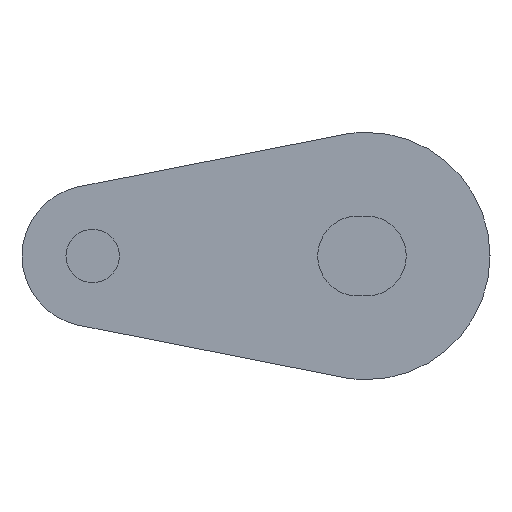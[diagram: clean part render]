
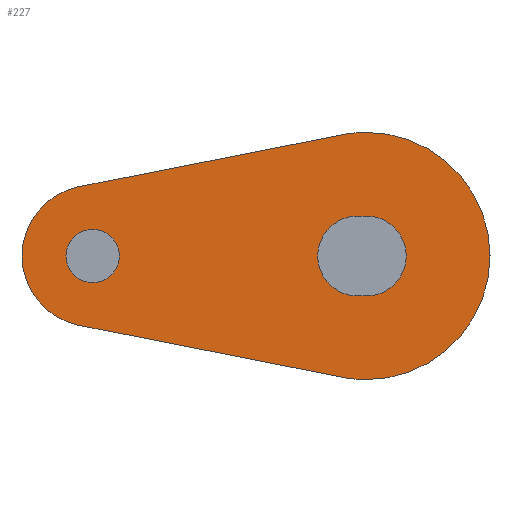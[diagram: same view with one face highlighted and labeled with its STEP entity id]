
A CAD part, left-side view. The second image highlights one B-rep face of the part: STEP entity #227.
In plain terms, the highlighted planar face has unit normal (-1, 0, 0).
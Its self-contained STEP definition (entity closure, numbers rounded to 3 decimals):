
#21 = CARTESIAN_POINT ( 'NONE',  ( -329.5, 0., 7. ) ) ;
#30 = CARTESIAN_POINT ( 'NONE',  ( -329.5, 1.355, -6.868 ) ) ;
#34 = CARTESIAN_POINT ( 'NONE',  ( -329.5, 0., 2.26 ) ) ;
#37 = CARTESIAN_POINT ( 'NONE',  ( -329.5, 15.5, -1.51 ) ) ;
#47 = CARTESIAN_POINT ( 'NONE',  ( -329.5, 1.355, 6.868 ) ) ;
#48 = CARTESIAN_POINT ( 'NONE',  ( -329.5, 15.5, 1.51 ) ) ;
#57 = EDGE_CURVE ( 'NONE', #661, #658, #389, .T. ) ;
#81 = AXIS2_PLACEMENT_3D ( 'NONE', #554, #553, #552 ) ;
#84 = AXIS2_PLACEMENT_3D ( 'NONE', #762, #825, #583 ) ;
#95 = AXIS2_PLACEMENT_3D ( 'NONE', #701, #699, #756 ) ;
#98 = EDGE_CURVE ( 'NONE', #606, #644, #348, .T. ) ;
#106 = AXIS2_PLACEMENT_3D ( 'NONE', #730, #704, #705 ) ;
#120 = AXIS2_PLACEMENT_3D ( 'NONE', #666, #622, #618 ) ;
#121 = EDGE_CURVE ( 'NONE', #631, #661, #330, .T. ) ;
#122 = EDGE_CURVE ( 'NONE', #658, #642, #327, .T. ) ;
#124 = EDGE_CURVE ( 'NONE', #625, #610, #323, .T. ) ;
#126 = EDGE_CURVE ( 'NONE', #643, #611, #322, .T. ) ;
#148 = EDGE_CURVE ( 'NONE', #611, #606, #871, .T. ) ;
#150 = EDGE_CURVE ( 'NONE', #635, #696, #872, .T. ) ;
#153 = EDGE_CURVE ( 'NONE', #610, #625, #971, .T. ) ;
#158 = EDGE_CURVE ( 'NONE', #696, #643, #964, .T. ) ;
#161 = AXIS2_PLACEMENT_3D ( 'NONE', #668, #617, #616 ) ;
#166 = AXIS2_PLACEMENT_3D ( 'NONE', #681, #680, #679 ) ;
#174 = AXIS2_PLACEMENT_3D ( 'NONE', #713, #810, #811 ) ;
#205 = EDGE_CURVE ( 'NONE', #644, #635, #927, .T. ) ;
#209 = AXIS2_PLACEMENT_3D ( 'NONE', #676, #621, #600 ) ;
#214 = EDGE_CURVE ( 'NONE', #642, #631, #922, .T. ) ;
#227 = ADVANCED_FACE ( 'NONE', ( #907, #904, #902 ), #558, .T. ) ;
#255 = CARTESIAN_POINT ( 'NONE',  ( -329.5, 16.274, 3.924 ) ) ;
#257 = CARTESIAN_POINT ( 'NONE',  ( -329.5, 0.5, 2.26 ) ) ;
#266 = CARTESIAN_POINT ( 'NONE',  ( -329.5, 0., -2.26 ) ) ;
#269 = CARTESIAN_POINT ( 'NONE',  ( -329.5, 0.5, -2.26 ) ) ;
#280 = CARTESIAN_POINT ( 'NONE',  ( -329.5, 0., -7. ) ) ;
#322 = LINE ( 'NONE', #620, #326 ) ;
#323 = CIRCLE ( 'NONE', #209, 1.51 ) ;
#326 = VECTOR ( 'NONE', #595, 1000. ) ;
#327 = CIRCLE ( 'NONE', #161, 2.26 ) ;
#330 = CIRCLE ( 'NONE', #120, 2.26 ) ;
#348 = CIRCLE ( 'NONE', #166, 7. ) ;
#389 = LINE ( 'NONE', #629, #394 ) ;
#390 = EDGE_LOOP ( 'NONE', ( #989, #984, #981, #991, #979, #1038 ) ) ;
#394 = VECTOR ( 'NONE', #695, 1000. ) ;
#445 = EDGE_LOOP ( 'NONE', ( #1041, #986, #977, #976 ) ) ;
#453 = EDGE_LOOP ( 'NONE', ( #974, #1054 ) ) ;
#543 = DIRECTION ( 'NONE',  ( 0., -1., 0. ) ) ;
#544 = CARTESIAN_POINT ( 'NONE',  ( -329.5, 0.5, 2.26 ) ) ;
#552 = DIRECTION ( 'NONE',  ( 0., 0., -1. ) ) ;
#553 = DIRECTION ( 'NONE',  ( -1., 0., 0. ) ) ;
#554 = CARTESIAN_POINT ( 'NONE',  ( -329.5, 15.5, 0. ) ) ;
#558 = PLANE ( 'NONE',  #81 ) ;
#583 = DIRECTION ( 'NONE',  ( 0., 0., -1. ) ) ;
#595 = DIRECTION ( 'NONE',  ( 0., -0.981, 0.194 ) ) ;
#600 = DIRECTION ( 'NONE',  ( 0., 0., -1. ) ) ;
#606 = VERTEX_POINT ( 'NONE', #21 ) ;
#610 = VERTEX_POINT ( 'NONE', #48 ) ;
#611 = VERTEX_POINT ( 'NONE', #47 ) ;
#616 = DIRECTION ( 'NONE',  ( 0., 0., -1. ) ) ;
#617 = DIRECTION ( 'NONE',  ( 1., 0., 0. ) ) ;
#618 = DIRECTION ( 'NONE',  ( 0., 0., -1. ) ) ;
#620 = CARTESIAN_POINT ( 'NONE',  ( -329.5, 16.274, 3.924 ) ) ;
#621 = DIRECTION ( 'NONE',  ( 1., 0., 0. ) ) ;
#622 = DIRECTION ( 'NONE',  ( 1., 0., 0. ) ) ;
#625 = VERTEX_POINT ( 'NONE', #37 ) ;
#629 = CARTESIAN_POINT ( 'NONE',  ( -329.5, 0.5, -2.26 ) ) ;
#631 = VERTEX_POINT ( 'NONE', #34 ) ;
#635 = VERTEX_POINT ( 'NONE', #30 ) ;
#642 = VERTEX_POINT ( 'NONE', #257 ) ;
#643 = VERTEX_POINT ( 'NONE', #255 ) ;
#644 = VERTEX_POINT ( 'NONE', #280 ) ;
#658 = VERTEX_POINT ( 'NONE', #269 ) ;
#661 = VERTEX_POINT ( 'NONE', #266 ) ;
#666 = CARTESIAN_POINT ( 'NONE',  ( -329.5, 0., 0. ) ) ;
#668 = CARTESIAN_POINT ( 'NONE',  ( -329.5, 0.5, 0. ) ) ;
#676 = CARTESIAN_POINT ( 'NONE',  ( -329.5, 15.5, 0. ) ) ;
#679 = DIRECTION ( 'NONE',  ( 0., 0., -1. ) ) ;
#680 = DIRECTION ( 'NONE',  ( 1., 0., 0. ) ) ;
#681 = CARTESIAN_POINT ( 'NONE',  ( -329.5, 0., 0. ) ) ;
#695 = DIRECTION ( 'NONE',  ( 0., 1., 0. ) ) ;
#696 = VERTEX_POINT ( 'NONE', #865 ) ;
#699 = DIRECTION ( 'NONE',  ( 1., 0., 0. ) ) ;
#701 = CARTESIAN_POINT ( 'NONE',  ( -329.5, 15.5, 0. ) ) ;
#704 = DIRECTION ( 'NONE',  ( 1., 0., 0. ) ) ;
#705 = DIRECTION ( 'NONE',  ( 0., 0., -1. ) ) ;
#708 = CARTESIAN_POINT ( 'NONE',  ( -329.5, 1.355, -6.868 ) ) ;
#709 = DIRECTION ( 'NONE',  ( 0., 0.981, 0.194 ) ) ;
#713 = CARTESIAN_POINT ( 'NONE',  ( -329.5, 15.5, 0. ) ) ;
#730 = CARTESIAN_POINT ( 'NONE',  ( -329.5, 0., 0. ) ) ;
#756 = DIRECTION ( 'NONE',  ( 0., 0., -1. ) ) ;
#762 = CARTESIAN_POINT ( 'NONE',  ( -329.5, 0., 0. ) ) ;
#810 = DIRECTION ( 'NONE',  ( 1., 0., 0. ) ) ;
#811 = DIRECTION ( 'NONE',  ( 0., 0., -1. ) ) ;
#825 = DIRECTION ( 'NONE',  ( 1., 0., 0. ) ) ;
#865 = CARTESIAN_POINT ( 'NONE',  ( -329.5, 16.274, -3.924 ) ) ;
#871 = CIRCLE ( 'NONE', #106, 7. ) ;
#872 = LINE ( 'NONE', #708, #877 ) ;
#877 = VECTOR ( 'NONE', #709, 1000. ) ;
#902 = FACE_OUTER_BOUND ( 'NONE', #390, .T. ) ;
#904 = FACE_BOUND ( 'NONE', #453, .T. ) ;
#907 = FACE_BOUND ( 'NONE', #445, .T. ) ;
#921 = VECTOR ( 'NONE', #543, 1000. ) ;
#922 = LINE ( 'NONE', #544, #921 ) ;
#927 = CIRCLE ( 'NONE', #84, 7. ) ;
#964 = CIRCLE ( 'NONE', #174, 4. ) ;
#971 = CIRCLE ( 'NONE', #95, 1.51 ) ;
#974 = ORIENTED_EDGE ( 'NONE', *, *, #124, .T. ) ;
#976 = ORIENTED_EDGE ( 'NONE', *, *, #57, .T. ) ;
#977 = ORIENTED_EDGE ( 'NONE', *, *, #121, .T. ) ;
#979 = ORIENTED_EDGE ( 'NONE', *, *, #148, .F. ) ;
#981 = ORIENTED_EDGE ( 'NONE', *, *, #205, .F. ) ;
#984 = ORIENTED_EDGE ( 'NONE', *, *, #150, .F. ) ;
#986 = ORIENTED_EDGE ( 'NONE', *, *, #214, .T. ) ;
#989 = ORIENTED_EDGE ( 'NONE', *, *, #158, .F. ) ;
#991 = ORIENTED_EDGE ( 'NONE', *, *, #98, .F. ) ;
#1038 = ORIENTED_EDGE ( 'NONE', *, *, #126, .F. ) ;
#1041 = ORIENTED_EDGE ( 'NONE', *, *, #122, .T. ) ;
#1054 = ORIENTED_EDGE ( 'NONE', *, *, #153, .T. ) ;
